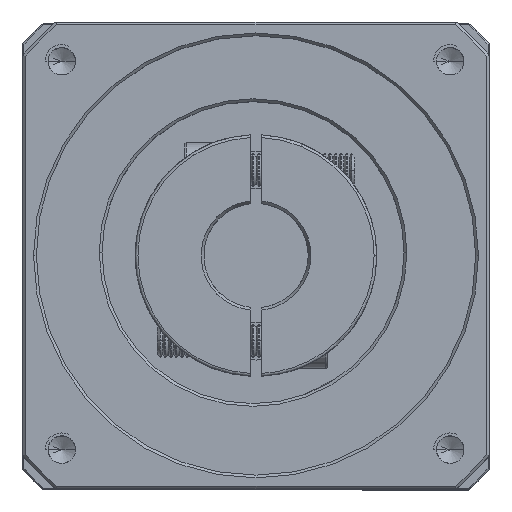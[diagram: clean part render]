
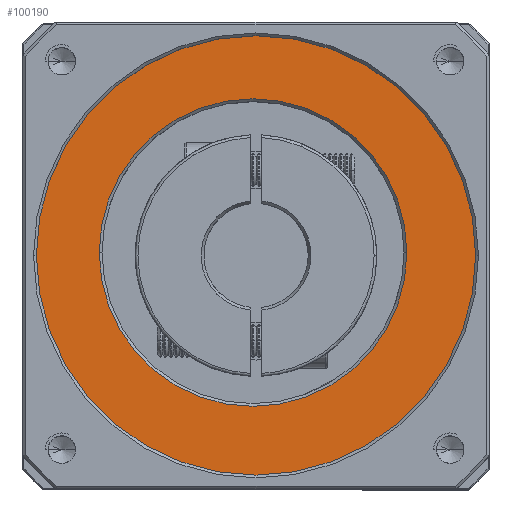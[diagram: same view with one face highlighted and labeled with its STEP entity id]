
A CAD part, top view. The second image highlights one B-rep face of the part: STEP entity #100190.
In plain terms, the highlighted planar face has unit normal (0, 0, 1).
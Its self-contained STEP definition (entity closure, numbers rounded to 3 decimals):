
#1727 = CARTESIAN_POINT ( 'NONE',  ( -88.125, 38.057, 14.807 ) ) ;
#2122 = EDGE_CURVE ( 'NONE', #44215, #34206, #22789, .T. ) ;
#2689 = ORIENTED_EDGE ( 'NONE', *, *, #2122, .T. ) ;
#9833 = PLANE ( 'NONE',  #84398 ) ;
#10615 = DIRECTION ( 'NONE',  ( 1., 0., 0. ) ) ;
#15819 = CARTESIAN_POINT ( 'NONE',  ( -116.667, 38.592, 14.807 ) ) ;
#17086 = CARTESIAN_POINT ( 'NONE',  ( -48.125, 38.057, 14.807 ) ) ;
#22198 = EDGE_LOOP ( 'NONE', ( #32993, #32537 ) ) ;
#22789 = CIRCLE ( 'NONE', #94003, 40. ) ;
#29248 = CARTESIAN_POINT ( 'NONE',  ( -88.667, 38.592, 14.807 ) ) ;
#32537 = ORIENTED_EDGE ( 'NONE', *, *, #53664, .T. ) ;
#32993 = ORIENTED_EDGE ( 'NONE', *, *, #64795, .T. ) ;
#34206 = VERTEX_POINT ( 'NONE', #44795 ) ;
#38069 = DIRECTION ( 'NONE',  ( 1., 0., 0. ) ) ;
#38399 = VERTEX_POINT ( 'NONE', #79392 ) ;
#42407 = AXIS2_PLACEMENT_3D ( 'NONE', #48288, #108484, #56995 ) ;
#44215 = VERTEX_POINT ( 'NONE', #17086 ) ;
#44795 = CARTESIAN_POINT ( 'NONE',  ( -128.125, 38.057, 14.807 ) ) ;
#47794 = CARTESIAN_POINT ( 'NONE',  ( -88.125, 38.057, 14.807 ) ) ;
#48288 = CARTESIAN_POINT ( 'NONE',  ( -88.667, 38.592, 14.807 ) ) ;
#48966 = EDGE_CURVE ( 'NONE', #34206, #44215, #73614, .T. ) ;
#53664 = EDGE_CURVE ( 'NONE', #83470, #38399, #83724, .T. ) ;
#55634 = CIRCLE ( 'NONE', #111857, 28. ) ;
#56487 = DIRECTION ( 'NONE',  ( 1., 0., 0. ) ) ;
#56995 = DIRECTION ( 'NONE',  ( 1., 0., 0. ) ) ;
#63130 = DIRECTION ( 'NONE',  ( 0., 0., 1. ) ) ;
#64795 = EDGE_CURVE ( 'NONE', #38399, #83470, #55634, .T. ) ;
#73614 = CIRCLE ( 'NONE', #111856, 40. ) ;
#78129 = FACE_OUTER_BOUND ( 'NONE', #85504, .T. ) ;
#79392 = CARTESIAN_POINT ( 'NONE',  ( -60.667, 38.592, 14.807 ) ) ;
#83199 = DIRECTION ( 'NONE',  ( 1., 0., 0. ) ) ;
#83337 = DIRECTION ( 'NONE',  ( 0., 0., 1. ) ) ;
#83470 = VERTEX_POINT ( 'NONE', #15819 ) ;
#83480 = CARTESIAN_POINT ( 'NONE',  ( -88.125, 38.057, 14.807 ) ) ;
#83724 = CIRCLE ( 'NONE', #42407, 28. ) ;
#84398 = AXIS2_PLACEMENT_3D ( 'NONE', #1727, #63130, #10615 ) ;
#85504 = EDGE_LOOP ( 'NONE', ( #2689, #87349 ) ) ;
#87349 = ORIENTED_EDGE ( 'NONE', *, *, #48966, .T. ) ;
#89978 = DIRECTION ( 'NONE',  ( 0., 0., -1. ) ) ;
#94003 = AXIS2_PLACEMENT_3D ( 'NONE', #83480, #83337, #83199 ) ;
#98241 = FACE_BOUND ( 'NONE', #22198, .T. ) ;
#100190 = ADVANCED_FACE ( 'NONE', ( #78129, #98241 ), #9833, .T. ) ;
#108031 = DIRECTION ( 'NONE',  ( 0., 0., 1. ) ) ;
#108484 = DIRECTION ( 'NONE',  ( 0., 0., -1. ) ) ;
#111856 = AXIS2_PLACEMENT_3D ( 'NONE', #47794, #108031, #56487 ) ;
#111857 = AXIS2_PLACEMENT_3D ( 'NONE', #29248, #89978, #38069 ) ;
